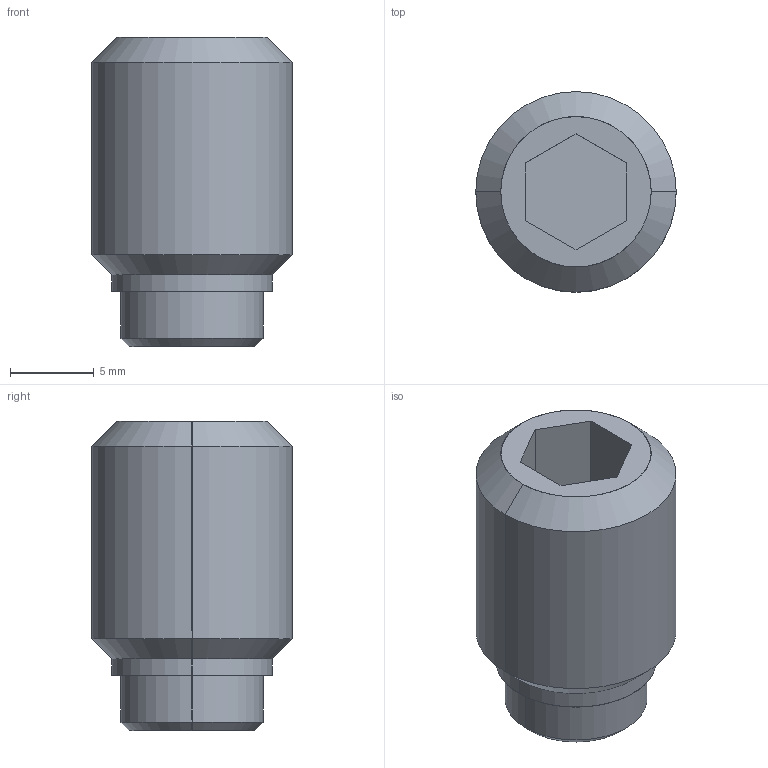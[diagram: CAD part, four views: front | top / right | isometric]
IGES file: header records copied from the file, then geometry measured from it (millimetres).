
Start section: SolidWorks IGES file using analytic representation for surfaces
Global section: file name: X:\11_SW2020-Inv2020\00_全2021-11新製品まで\l\LHSSB12X18_5\lhssb12x18_5.IGS; native system: SolidWorks 2020; preprocessor: SolidWorks 2020; author: ImaoCorp; date: 211025.115006; units: millimetre
Bounding box: 12 x 12 x 18.5 mm (x, y, z)
Surface area: 911.2 mm2 (no closed solid volume)
Topology: 0 solids, 0 shells, 22 faces, 212 edges, 212 vertices
Faces by surface type: revolution 12, bspline 10
